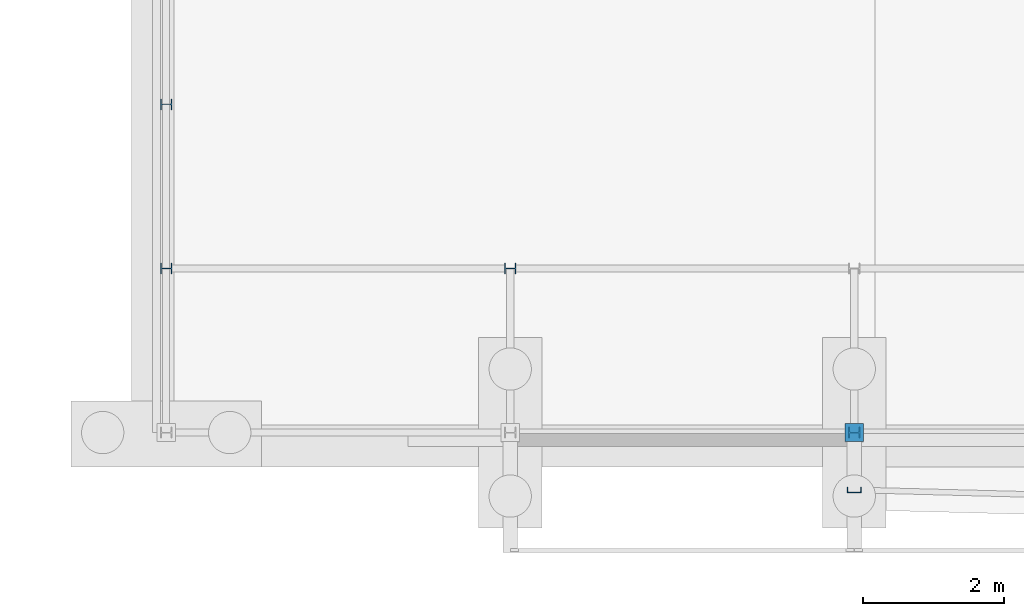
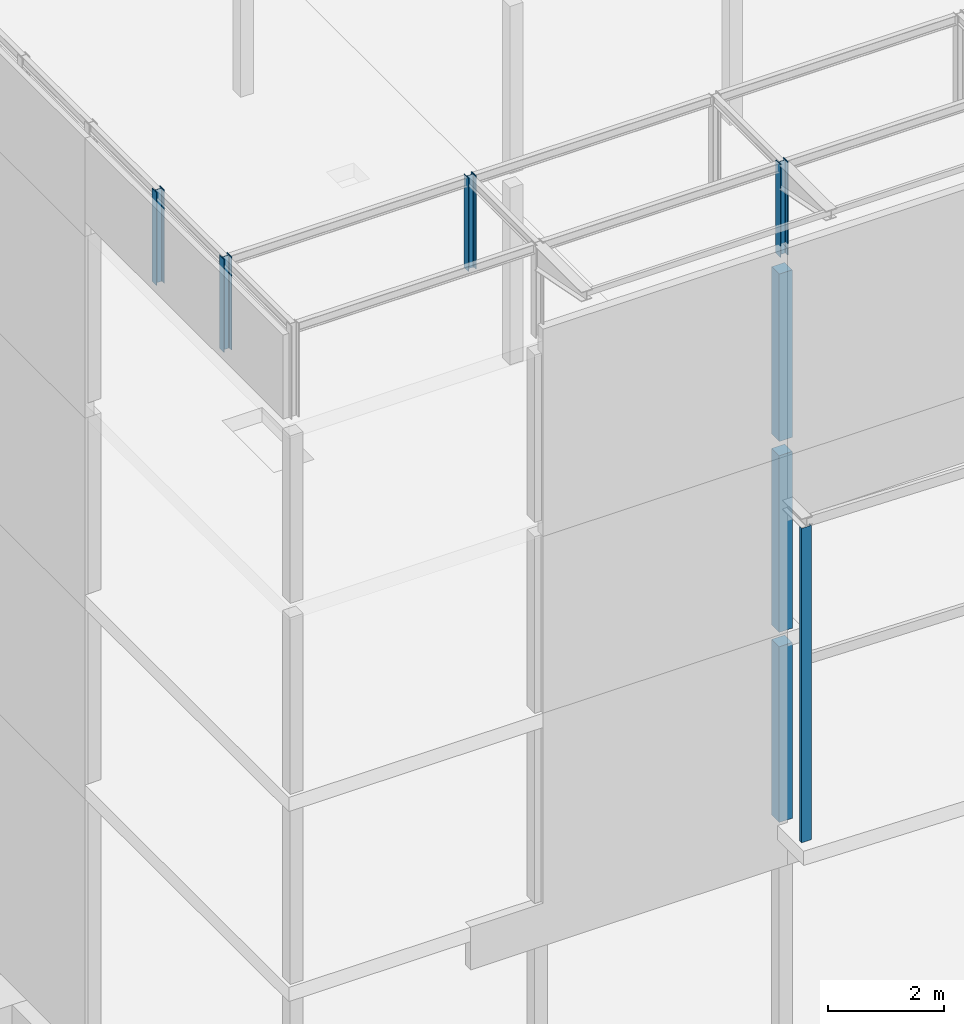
# One storey, part 2 of 82: 8 columns.
"""IFC2X3 building model written with IfcOpenShell, lengths in millimetres."""

from ifc_helpers import new_model, si_unit, frame, frame_2d, origin_with_axes, place, context, subcontext, project, spatial, rectangle, i_section, u_section, extrude, material, type_object, element, save


model = new_model("IFC2X3")

# Units and contexts
model_context = context("Model", 3, precision=1e-05, world=origin_with_axes())
body_context = subcontext(model_context, "Body", "Model", "MODEL_VIEW")
ifc_project = project(units=[si_unit("LENGTHUNIT", "METRE", prefix="MILLI"), si_unit("AREAUNIT", "SQUARE_METRE"), si_unit("VOLUMEUNIT", "CUBIC_METRE"), si_unit("MASSUNIT", "GRAM", prefix="KILO"), si_unit("TIMEUNIT", "SECOND"), si_unit("PLANEANGLEUNIT", "RADIAN"), si_unit("SOLIDANGLEUNIT", "STERADIAN"), si_unit("THERMODYNAMICTEMPERATUREUNIT", "DEGREE_CELSIUS"), si_unit("LUMINOUSINTENSITYUNIT", "LUMEN")], contexts=[model_context])

# Site, building, storey
site_placement = place(None, origin_with_axes())
site = spatial("IfcSite", under=ifc_project, at=site_placement, Name="Undefined", CompositionType="ELEMENT")
building_placement = place(site_placement, origin_with_axes())
building = spatial("IfcBuilding", under=site, at=building_placement, Name="Undefined", CompositionType="ELEMENT")
storey_placement = place(building_placement, origin_with_axes())
storey = spatial("IfcBuildingStorey", under=building, at=storey_placement, Name="Undefined", CompositionType="ELEMENT", Elevation=0.0)

# Columns
ifc_material_1 = material(Name="CONCRETE/C25/30")
column_type_1 = type_object("IfcColumnType", Name="260*260", PredefinedType="NOTDEFINED")
column_1_placement = place(storey_placement, frame((9749.99999999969, 1.34789672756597e-08, 13330.0), z_axis=(0.0, 0.0, 1.0), x_axis=(1.0, 0.0, 0.0)))
element("IfcColumn", 1, at=column_1_placement, inside=storey, type_object=column_type_1, material=ifc_material_1, Name="POTEAU", ObjectType="260*260", context=body_context, shape_type="SweptSolid", body=[
    extrude(rectangle(XDim=260.0, YDim=260.0, at=frame_2d((5.17284206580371e-08, 4.49290382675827e-10), x_axis=(1.0, 0.0))), frame((0.0, 0.0, 3529.99999999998), z_axis=(0.0, -6.50000002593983e-08, -0.999999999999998), x_axis=(-1.0, 0.0, 0.0)), (0.0, 0.0, 1.0), 3530.0),
])
column_2_placement = place(storey_placement, frame((9749.99999999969, 1.34785125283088e-08, 9305.0), z_axis=(0.0, 0.0, 1.0), x_axis=(1.0, 0.0, 0.0)))
element("IfcColumn", 2, at=column_2_placement, inside=storey, type_object=column_type_1, material=ifc_material_1, Name="POTEAU", ObjectType="260*260", context=body_context, shape_type="SweptSolid", body=[
    extrude(rectangle(XDim=260.0, YDim=260.0, at=frame_2d((5.17284206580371e-08, 4.49290382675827e-10), x_axis=(1.0, 0.0))), frame((0.0, 0.0, 3725.0), z_axis=(0.0, -6.50000002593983e-08, -0.999999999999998), x_axis=(-1.0, 0.0, 0.0)), (0.0, 0.0, 1.0), 3725.0),
])
column_3_placement = place(storey_placement, frame((9749.99999999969, 1.34789672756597e-08, 5300.0), z_axis=(0.0, 0.0, 1.0), x_axis=(1.0, 0.0, 0.0)))
element("IfcColumn", 3, at=column_3_placement, inside=storey, type_object=column_type_1, material=ifc_material_1, Name="POTEAU", ObjectType="260*260", context=body_context, shape_type="SweptSolid", body=[
    extrude(rectangle(XDim=260.0, YDim=260.0, at=frame_2d((5.17284206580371e-08, 4.49290382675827e-10), x_axis=(1.0, 0.0))), frame((0.0, 0.0, 3705.00000000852), z_axis=(0.0, -6.50000002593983e-08, -0.999999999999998), x_axis=(-1.0, 0.0, 0.0)), (0.0, 0.0, 1.0), 3705.0),
])
ifc_material_2 = material(Name="STEEL/S275JR")
column_type_2 = type_object("IfcColumnType", Name="HEB160", PredefinedType="NOTDEFINED")
for number, where, z_axis, x_axis, name in (
    (4, (9749.99999997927, -2.4869422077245e-08, 17160.0), (0.0, 0.0, 1.0), (1.0, 0.0, 0.0), "POTEAU"),
    (5, (4875.00000108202, 2324.99999968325, 17160.0), (0.0, 0.0, 1.0), (1.0, 0.0, 0.0), "POTEAU"),
    (6, (1.17070158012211e-06, 4649.9999996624, 17160.0), (0.0, 0.0, 1.0), (1.0, 0.0, 0.0), "POTEAU"),
    (7, (5.65698428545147e-07, 2324.99999983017, 17160.0), (0.0, 0.0, 1.0), (1.0, 0.0, 0.0), "POTEAU"),
):
    element("IfcColumn", number, at=place(storey_placement, frame(where, z_axis=z_axis, x_axis=x_axis)), inside=storey, type_object=column_type_2, material=ifc_material_2, Name=name, ObjectType="HEB160", context=body_context, shape_type="SweptSolid", body=[
        extrude(i_section(OverallWidth=160.0, OverallDepth=160.0, WebThickness=8.0, FlangeThickness=13.0, FilletRadius=15.0, at=frame_2d((5.17284206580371e-08, 4.49290382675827e-10), x_axis=(1.0, 0.0))), frame((0.0, 0.0, 1965.0), z_axis=(0.0, -6.50000002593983e-08, -0.999999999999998), x_axis=(-2.77555756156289e-17, -1.0, 0.0)), (0.0, 0.0, 1.0), 1965.0),
    ])
column_type_3 = type_object("IfcColumnType", Name="UPE200", PredefinedType="NOTDEFINED")
column_4_placement = place(storey_placement, frame((9750.00000000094, -812.231356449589, 5300.00000000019), z_axis=(0.0, 0.0, 1.0), x_axis=(1.0, 0.0, 0.0)))
element("IfcColumn", 8, at=column_4_placement, inside=storey, type_object=column_type_3, material=ifc_material_2, Name="POUTRE", ObjectType="UPE200", context=body_context, shape_type="SweptSolid", body=[
    extrude(u_section(Depth=200.0, FlangeWidth=80.0, WebThickness=6.0, FlangeThickness=11.0, FilletRadius=13.0, at=frame_2d((5.17284206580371e-08, 4.49290382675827e-10), x_axis=(1.0, 0.0))), frame((0.0, 0.0, 6625.00000000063), z_axis=(0.0, -6.50000002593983e-08, -0.999999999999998), x_axis=(0.0, 1.0, 0.0)), (0.0, 0.0, 1.0), 6625.0),
])

save(model, "model.ifc")
